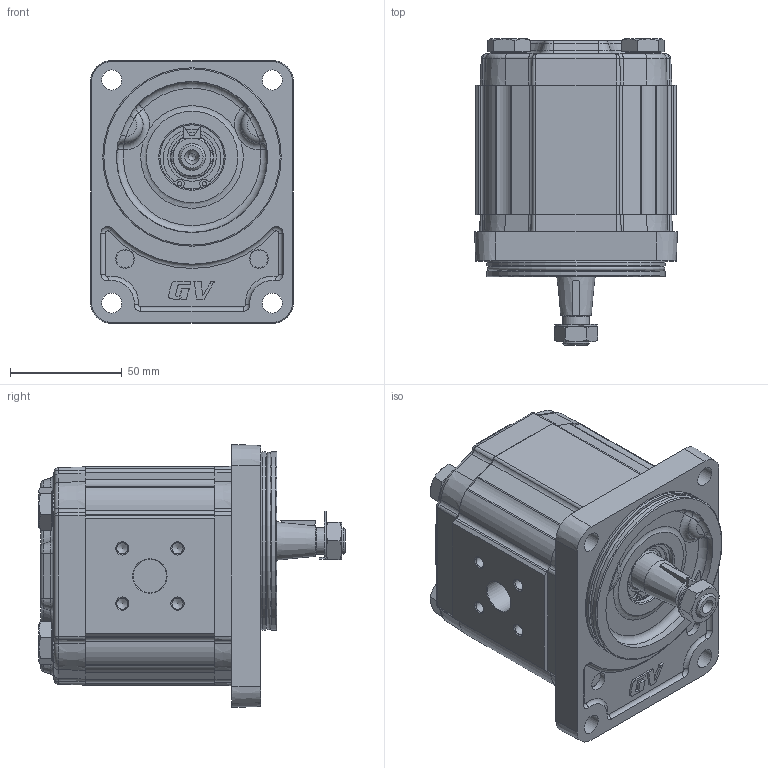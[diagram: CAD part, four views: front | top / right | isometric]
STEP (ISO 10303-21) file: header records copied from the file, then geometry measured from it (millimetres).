
FILE_DESCRIPTION(/* description */ ('Unknown'),/* implementation_level */ '2;1');
FILE_NAME(/* name */ 'G2P4741FSRA',/* time_stamp */ '2026-06-03T17:57:59+02:00',/* author */ ('Unknown'),/* organization */ ('Unknown'),/* preprocessor_version */ 'ST-DEVELOPER v16.7',/* originating_system */ 'Solid Edge',/* authorisation */ 'Unknown');
FILE_SCHEMA (('AUTOMOTIVE_DESIGN {1 0 10303 214 3 1 1}'));
Length unit declared in the file: millimetre
Products named in the file (5): G2P4741FSRA; G2P41; 2F; G2SRH58; GP217-A
Assembly tree (4 placements, depth 2):
  G2P4741FSRA
    G2P41
    2F
    G2SRH58
    GP217-A
Bounding box: 90.91 x 137.55 x 117.91 mm (x, y, z)
Volume: 771310.6 mm3; surface area: 113931.5 mm2
Topology: 4 solids, 7 shells, 959 faces, 3251 edges, 2044 vertices
Faces by surface type: cylinder 383, plane 340, cone 112, torus 60, bspline 60, sphere 4
Full cylindrical faces by diameter (mm): 2 x2, 5 x8, 8.376 x6, 9 x4, 9.9 x4, 10 x4, 10.5 x8, 12 x2, 12.5 x1, 15 x5, 15.8 x4, 16 x4, 17.42 x1, 17.48 x2, 18 x4, 18.724 x1, 20 x1, 20.595 x1, 21.741 x1, 25.834 x1, 28.56 x1, 28.57 x1, 28.8 x1, 30.5 x1, 77.2 x2, 80 x2
Entity records: 47504 total; most frequent: CARTESIAN_POINT 13163, ORIENTED_EDGE 6124, DIRECTION 5469, EDGE_CURVE 3062, AXIS2_PLACEMENT_3D 2103, VERTEX_POINT 1995, LINE 1263, VECTOR 1263
